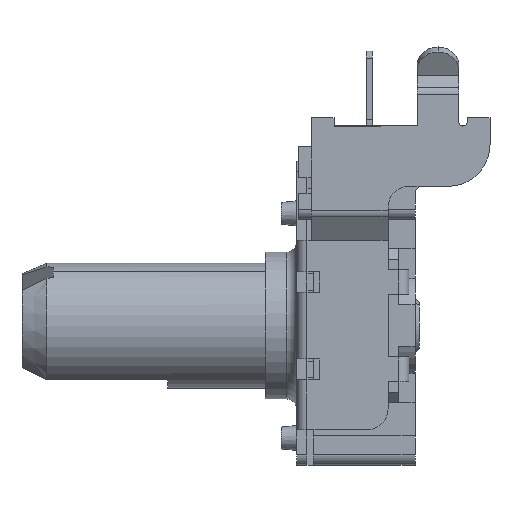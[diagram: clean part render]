
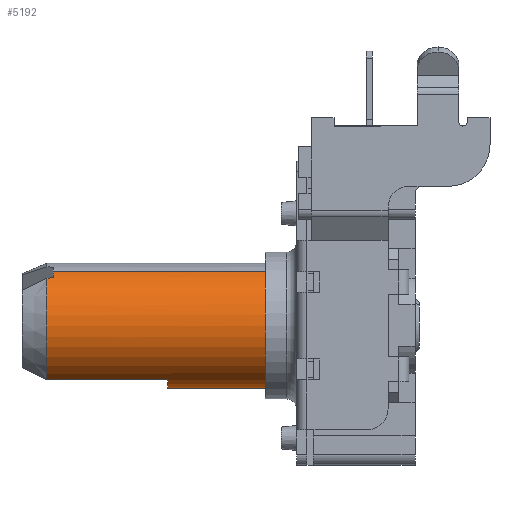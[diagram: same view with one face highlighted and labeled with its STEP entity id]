
A CAD part, left-side view. The second image highlights one B-rep face of the part: STEP entity #5192.
In plain terms, the highlighted cylindrical face has radius 3 mm (diameter 6 mm), a partial arc.
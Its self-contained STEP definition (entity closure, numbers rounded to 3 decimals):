
#105 = CARTESIAN_POINT ( 'NONE',  ( 0.533, 15., -2.952 ) ) ;
#273 = VERTEX_POINT ( 'NONE', #8504 ) ;
#961 = CARTESIAN_POINT ( 'NONE',  ( 0., 2.5, 0. ) ) ;
#962 = LINE ( 'NONE', #15616, #6262 ) ;
#1385 = DIRECTION ( 'NONE',  ( 0., -1., 0. ) ) ;
#1474 = CIRCLE ( 'NONE', #3532, 3. ) ;
#1500 = VERTEX_POINT ( 'NONE', #6964 ) ;
#1914 = CARTESIAN_POINT ( 'NONE',  ( 2.598, 15.1, 1.5 ) ) ;
#2095 = ORIENTED_EDGE ( 'NONE', *, *, #10802, .F. ) ;
#2115 = CARTESIAN_POINT ( 'NONE',  ( 0., 15.1, 0. ) ) ;
#2358 = EDGE_CURVE ( 'NONE', #8040, #1500, #2994, .T. ) ;
#2929 = ORIENTED_EDGE ( 'NONE', *, *, #10343, .T. ) ;
#2957 = AXIS2_PLACEMENT_3D ( 'NONE', #13253, #13077, #11673 ) ;
#2994 = CIRCLE ( 'NONE', #11180, 3. ) ;
#3351 = VERTEX_POINT ( 'NONE', #1914 ) ;
#3532 = AXIS2_PLACEMENT_3D ( 'NONE', #5375, #3863, #8828 ) ;
#3863 = DIRECTION ( 'NONE',  ( 0., 1., 0. ) ) ;
#3925 = VECTOR ( 'NONE', #1385, 1000. ) ;
#3943 = VERTEX_POINT ( 'NONE', #11054 ) ;
#4011 = CARTESIAN_POINT ( 'NONE',  ( 0.5, 14.8, -2.958 ) ) ;
#4657 = DIRECTION ( 'NONE',  ( 0., -1., 0. ) ) ;
#4766 = ORIENTED_EDGE ( 'NONE', *, *, #8531, .F. ) ;
#4847 = CARTESIAN_POINT ( 'NONE',  ( 0.517, 14.9, -2.955 ) ) ;
#4953 = DIRECTION ( 'NONE',  ( 0., 1., 0. ) ) ;
#5176 = VERTEX_POINT ( 'NONE', #6540 ) ;
#5192 = ADVANCED_FACE ( 'NONE', ( #9266 ), #14130, .T. ) ;
#5281 = CARTESIAN_POINT ( 'NONE',  ( 0., 9.3, 3. ) ) ;
#5375 = CARTESIAN_POINT ( 'NONE',  ( 0., 9.3, 0. ) ) ;
#5421 = ORIENTED_EDGE ( 'NONE', *, *, #13583, .F. ) ;
#5560 = ORIENTED_EDGE ( 'NONE', *, *, #8440, .F. ) ;
#5861 = DIRECTION ( 'NONE',  ( 0., 0., 1. ) ) ;
#6022 = CIRCLE ( 'NONE', #2957, 3. ) ;
#6040 = CARTESIAN_POINT ( 'NONE',  ( 0., 15.1, -3. ) ) ;
#6054 = VERTEX_POINT ( 'NONE', #4011 ) ;
#6076 = VERTEX_POINT ( 'NONE', #5281 ) ;
#6197 = LINE ( 'NONE', #6040, #3925 ) ;
#6262 = VECTOR ( 'NONE', #4657, 1000. ) ;
#6540 = CARTESIAN_POINT ( 'NONE',  ( 2.598, 9.3, 1.5 ) ) ;
#6926 = DIRECTION ( 'NONE',  ( 0., 0., -1. ) ) ;
#6964 = CARTESIAN_POINT ( 'NONE',  ( 0., 2.5, -3. ) ) ;
#7056 = DIRECTION ( 'NONE',  ( 0., 1., 0. ) ) ;
#7227 = ORIENTED_EDGE ( 'NONE', *, *, #9228, .F. ) ;
#8040 = VERTEX_POINT ( 'NONE', #8543 ) ;
#8099 = ORIENTED_EDGE ( 'NONE', *, *, #11160, .F. ) ;
#8440 = EDGE_CURVE ( 'NONE', #273, #6054, #10339, .T. ) ;
#8504 = CARTESIAN_POINT ( 'NONE',  ( 0.55, 15.1, -2.949 ) ) ;
#8531 = EDGE_CURVE ( 'NONE', #3943, #1500, #6197, .T. ) ;
#8543 = CARTESIAN_POINT ( 'NONE',  ( 0., 2.5, 3. ) ) ;
#8663 = AXIS2_PLACEMENT_3D ( 'NONE', #2115, #15475, #6926 ) ;
#8804 = CARTESIAN_POINT ( 'NONE',  ( 2.598, 9.3, 1.5 ) ) ;
#8828 = DIRECTION ( 'NONE',  ( 0., 0., 1. ) ) ;
#9052 = AXIS2_PLACEMENT_3D ( 'NONE', #9918, #13649, #12283 ) ;
#9228 = EDGE_CURVE ( 'NONE', #6054, #3943, #12090, .T. ) ;
#9266 = FACE_OUTER_BOUND ( 'NONE', #14766, .T. ) ;
#9659 = ORIENTED_EDGE ( 'NONE', *, *, #2358, .T. ) ;
#9918 = CARTESIAN_POINT ( 'NONE',  ( 0., 14.8, 0. ) ) ;
#10339 =( BOUNDED_CURVE ( )  B_SPLINE_CURVE ( 3, ( #10927, #105, #4847, #12185 ),
 .UNSPECIFIED., .F., .F. ) 
 B_SPLINE_CURVE_WITH_KNOTS ( ( 4, 4 ),
 ( 4.528, 4.545 ),
 .UNSPECIFIED. ) 
 CURVE ( )  GEOMETRIC_REPRESENTATION_ITEM ( )  RATIONAL_B_SPLINE_CURVE ( ( 1., 1., 1., 1. ) ) 
 REPRESENTATION_ITEM ( '' )  );
#10343 = EDGE_CURVE ( 'NONE', #6076, #8040, #962, .T. ) ;
#10802 = EDGE_CURVE ( 'NONE', #5176, #3351, #13661, .T. ) ;
#10927 = CARTESIAN_POINT ( 'NONE',  ( 0.55, 15.1, -2.949 ) ) ;
#11054 = CARTESIAN_POINT ( 'NONE',  ( 0., 14.8, -3. ) ) ;
#11131 = VECTOR ( 'NONE', #4953, 1000. ) ;
#11160 = EDGE_CURVE ( 'NONE', #3351, #273, #6022, .T. ) ;
#11180 = AXIS2_PLACEMENT_3D ( 'NONE', #961, #7056, #5861 ) ;
#11673 = DIRECTION ( 'NONE',  ( 0., 0., 1. ) ) ;
#12090 = CIRCLE ( 'NONE', #9052, 3. ) ;
#12185 = CARTESIAN_POINT ( 'NONE',  ( 0.5, 14.8, -2.958 ) ) ;
#12283 = DIRECTION ( 'NONE',  ( 0., 0., -1. ) ) ;
#13077 = DIRECTION ( 'NONE',  ( 0., 1., 0. ) ) ;
#13253 = CARTESIAN_POINT ( 'NONE',  ( 0., 15.1, 0. ) ) ;
#13583 = EDGE_CURVE ( 'NONE', #6076, #5176, #1474, .T. ) ;
#13649 = DIRECTION ( 'NONE',  ( 0., 1., 0. ) ) ;
#13661 = LINE ( 'NONE', #8804, #11131 ) ;
#14130 = CYLINDRICAL_SURFACE ( 'NONE', #8663, 3. ) ;
#14766 = EDGE_LOOP ( 'NONE', ( #5421, #2929, #9659, #4766, #7227, #5560, #8099, #2095 ) ) ;
#15475 = DIRECTION ( 'NONE',  ( 0., -1., 0. ) ) ;
#15616 = CARTESIAN_POINT ( 'NONE',  ( 0., 15.1, 3. ) ) ;
